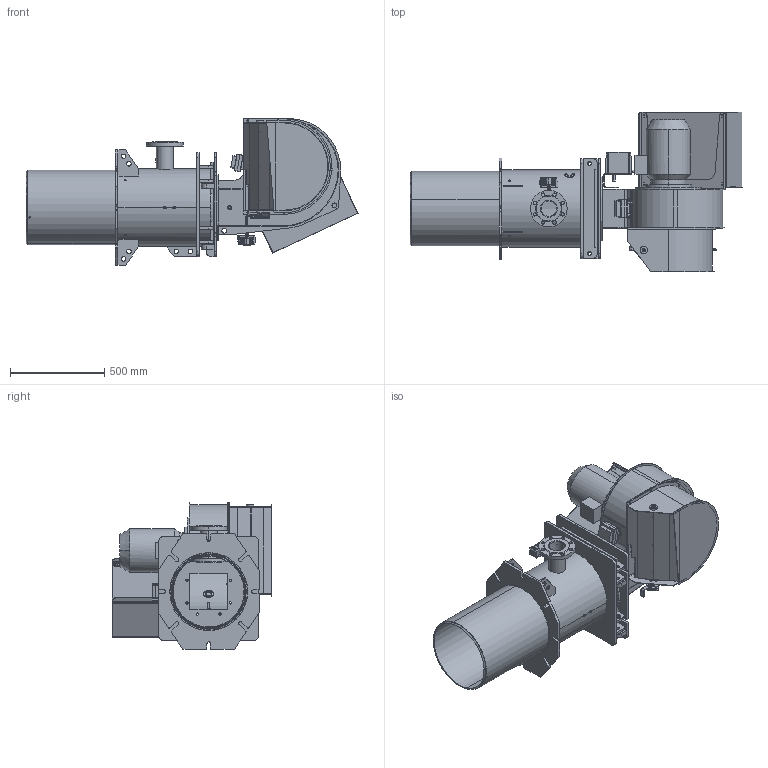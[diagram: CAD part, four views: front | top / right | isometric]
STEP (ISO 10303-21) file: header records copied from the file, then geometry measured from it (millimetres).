
FILE_DESCRIPTION (( 'STEP AP214' ), '1' );
FILE_NAME ('Ò3.390G.STEP', '2021-04-30T13:50:51', ( 'Pavel' ), ( '' ), 'SwSTEP 2.0', 'SolidWorks 2016', '' );
FILE_SCHEMA (( 'AUTOMOTIVE_DESIGN' ));
Length unit declared in the file: millimetre
Products named in the file (2): ﾒ3.390G
Bounding box: 1765.3 x 849.25 x 779.97 mm (x, y, z)
Volume: 43743890.4 mm3; surface area: 11833967.1 mm2
Topology: 108 solids, 109 shells, 2854 faces, 7248 edges, 4651 vertices
Faces by surface type: plane 1223, cylinder 1125, cone 306, bspline 192, torus 8
Entity records: 134567 total; most frequent: CARTESIAN_POINT 32920, ORIENTED_EDGE 14428, DIRECTION 13899, EDGE_CURVE 7214, AXIS2_PLACEMENT_3D 4986, VERTEX_POINT 4650, LINE 3927, VECTOR 3927
